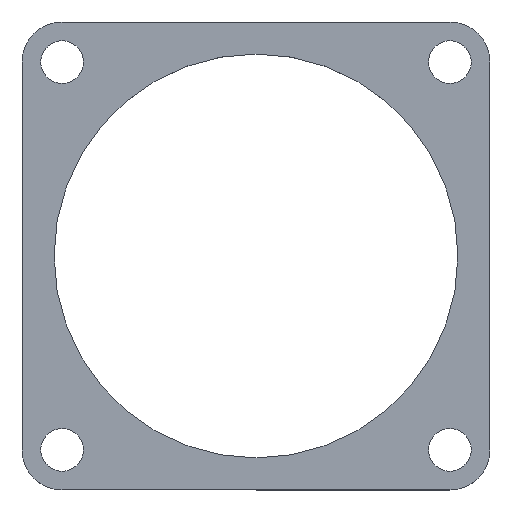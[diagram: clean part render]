
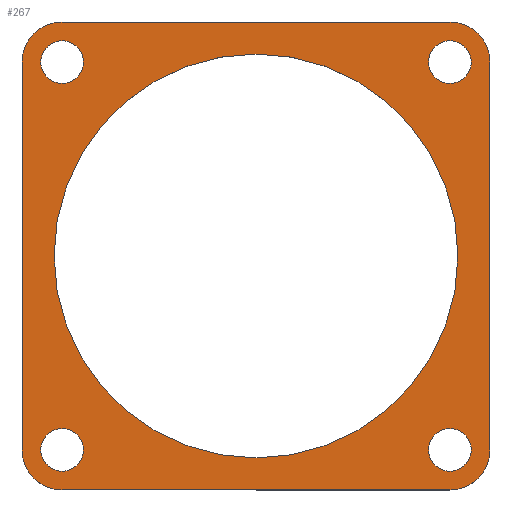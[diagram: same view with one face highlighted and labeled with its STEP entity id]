
A CAD part, top view. The second image highlights one B-rep face of the part: STEP entity #267.
In plain terms, the highlighted planar face has unit normal (0, 0, 1).
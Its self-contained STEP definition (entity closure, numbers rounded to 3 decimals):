
#3 = VECTOR ( 'NONE', #8, 1000. ) ;
#7 = VECTOR ( 'NONE', #392, 1000. ) ;
#8 = DIRECTION ( 'NONE',  ( 1., 0., 0. ) ) ;
#29 = FACE_BOUND ( 'NONE', #189, .T. ) ;
#35 = DIRECTION ( 'NONE',  ( -1., 0., 0. ) ) ;
#40 = DIRECTION ( 'NONE',  ( 0., 0., 1. ) ) ;
#41 = DIRECTION ( 'NONE',  ( 0., -1., 0. ) ) ;
#44 = CARTESIAN_POINT ( 'NONE',  ( 14.5, 17.5, 1. ) ) ;
#47 = VERTEX_POINT ( 'NONE', #542 ) ;
#54 = CIRCLE ( 'NONE', #360, 1.6 ) ;
#60 = VERTEX_POINT ( 'NONE', #340 ) ;
#63 = CARTESIAN_POINT ( 'NONE',  ( 16.1, 14.5, 1. ) ) ;
#66 = AXIS2_PLACEMENT_3D ( 'NONE', #516, #224, #99 ) ;
#69 = EDGE_LOOP ( 'NONE', ( #345 ) ) ;
#74 = AXIS2_PLACEMENT_3D ( 'NONE', #433, #354, #175 ) ;
#75 = ORIENTED_EDGE ( 'NONE', *, *, #221, .T. ) ;
#76 = AXIS2_PLACEMENT_3D ( 'NONE', #254, #40, #347 ) ;
#87 = DIRECTION ( 'NONE',  ( 0., 0., 1. ) ) ;
#93 = CARTESIAN_POINT ( 'NONE',  ( 17.5, 14.5, 1. ) ) ;
#95 = CARTESIAN_POINT ( 'NONE',  ( 17.5, -14.5, 1. ) ) ;
#99 = DIRECTION ( 'NONE',  ( 1., 0., 0. ) ) ;
#103 = LINE ( 'NONE', #93, #7 ) ;
#112 = AXIS2_PLACEMENT_3D ( 'NONE', #436, #272, #170 ) ;
#115 = AXIS2_PLACEMENT_3D ( 'NONE', #262, #521, #313 ) ;
#121 = CARTESIAN_POINT ( 'NONE',  ( -14.5, 14.5, 1. ) ) ;
#123 = CIRCLE ( 'NONE', #115, 3. ) ;
#131 = AXIS2_PLACEMENT_3D ( 'NONE', #469, #87, #300 ) ;
#132 = CARTESIAN_POINT ( 'NONE',  ( 0., 0., 1. ) ) ;
#133 = EDGE_CURVE ( 'NONE', #500, #500, #54, .T. ) ;
#146 = ORIENTED_EDGE ( 'NONE', *, *, #541, .F. ) ;
#147 = CARTESIAN_POINT ( 'NONE',  ( -12.9, -14.5, 1. ) ) ;
#151 = VERTEX_POINT ( 'NONE', #63 ) ;
#152 = FACE_OUTER_BOUND ( 'NONE', #284, .T. ) ;
#156 = EDGE_LOOP ( 'NONE', ( #480 ) ) ;
#164 = EDGE_CURVE ( 'NONE', #310, #60, #423, .T. ) ;
#165 = CIRCLE ( 'NONE', #514, 1.6 ) ;
#170 = DIRECTION ( 'NONE',  ( -1., 0., 0. ) ) ;
#172 = EDGE_CURVE ( 'NONE', #490, #318, #250, .T. ) ;
#175 = DIRECTION ( 'NONE',  ( 1., 0., 0. ) ) ;
#178 = VECTOR ( 'NONE', #35, 1000. ) ;
#181 = DIRECTION ( 'NONE',  ( 1., 0., 0. ) ) ;
#185 = CARTESIAN_POINT ( 'NONE',  ( 14.5, 14.5, 1. ) ) ;
#189 = EDGE_LOOP ( 'NONE', ( #366 ) ) ;
#200 = CIRCLE ( 'NONE', #76, 3. ) ;
#205 = DIRECTION ( 'NONE',  ( 0., 0., 1. ) ) ;
#206 = VERTEX_POINT ( 'NONE', #320 ) ;
#212 = CARTESIAN_POINT ( 'NONE',  ( -14.5, -17.5, 1. ) ) ;
#213 = AXIS2_PLACEMENT_3D ( 'NONE', #185, #280, #181 ) ;
#219 = EDGE_LOOP ( 'NONE', ( #426 ) ) ;
#221 = EDGE_CURVE ( 'NONE', #318, #298, #200, .T. ) ;
#222 = CARTESIAN_POINT ( 'NONE',  ( -17.5, 14.5, 1. ) ) ;
#224 = DIRECTION ( 'NONE',  ( 0., 0., 1. ) ) ;
#226 = EDGE_CURVE ( 'NONE', #298, #285, #239, .T. ) ;
#238 = EDGE_CURVE ( 'NONE', #206, #206, #348, .T. ) ;
#239 = LINE ( 'NONE', #212, #3 ) ;
#245 = ORIENTED_EDGE ( 'NONE', *, *, #164, .T. ) ;
#250 = LINE ( 'NONE', #379, #257 ) ;
#251 = ORIENTED_EDGE ( 'NONE', *, *, #226, .T. ) ;
#254 = CARTESIAN_POINT ( 'NONE',  ( -14.5, -14.5, 1. ) ) ;
#255 = CARTESIAN_POINT ( 'NONE',  ( -14.5, -17.5, 1. ) ) ;
#257 = VECTOR ( 'NONE', #41, 1000. ) ;
#260 = ORIENTED_EDGE ( 'NONE', *, *, #435, .T. ) ;
#262 = CARTESIAN_POINT ( 'NONE',  ( 14.5, 14.5, 1. ) ) ;
#264 = VERTEX_POINT ( 'NONE', #147 ) ;
#267 = ADVANCED_FACE ( 'NONE', ( #509, #29, #152, #316, #397, #438 ), #468, .T. ) ;
#268 = DIRECTION ( 'NONE',  ( 0., 0., 1. ) ) ;
#272 = DIRECTION ( 'NONE',  ( 0., 0., 1. ) ) ;
#275 = CIRCLE ( 'NONE', #66, 1.6 ) ;
#280 = DIRECTION ( 'NONE',  ( 0., 0., 1. ) ) ;
#282 = CARTESIAN_POINT ( 'NONE',  ( 16.1, -14.5, 1. ) ) ;
#284 = EDGE_LOOP ( 'NONE', ( #533, #260, #304, #245, #539, #446, #75, #251 ) ) ;
#285 = VERTEX_POINT ( 'NONE', #510 ) ;
#295 = DIRECTION ( 'NONE',  ( 1., 0., 0. ) ) ;
#298 = VERTEX_POINT ( 'NONE', #255 ) ;
#300 = DIRECTION ( 'NONE',  ( 1., 0., 0. ) ) ;
#301 = CIRCLE ( 'NONE', #213, 1.6 ) ;
#304 = ORIENTED_EDGE ( 'NONE', *, *, #460, .T. ) ;
#308 = DIRECTION ( 'NONE',  ( 1., 0., 0. ) ) ;
#310 = VERTEX_POINT ( 'NONE', #44 ) ;
#313 = DIRECTION ( 'NONE',  ( -1., 0., 0. ) ) ;
#316 = FACE_BOUND ( 'NONE', #69, .T. ) ;
#318 = VERTEX_POINT ( 'NONE', #346 ) ;
#319 = EDGE_CURVE ( 'NONE', #264, #264, #165, .T. ) ;
#320 = CARTESIAN_POINT ( 'NONE',  ( 15.1, 0., 1. ) ) ;
#340 = CARTESIAN_POINT ( 'NONE',  ( -14.5, 17.5, 1. ) ) ;
#345 = ORIENTED_EDGE ( 'NONE', *, *, #238, .F. ) ;
#346 = CARTESIAN_POINT ( 'NONE',  ( -17.5, -14.5, 1. ) ) ;
#347 = DIRECTION ( 'NONE',  ( -1., 0., 0. ) ) ;
#348 = CIRCLE ( 'NONE', #483, 15.1 ) ;
#351 = EDGE_CURVE ( 'NONE', #60, #490, #493, .T. ) ;
#354 = DIRECTION ( 'NONE',  ( 0., 0., 1. ) ) ;
#360 = AXIS2_PLACEMENT_3D ( 'NONE', #121, #205, #295 ) ;
#366 = ORIENTED_EDGE ( 'NONE', *, *, #133, .F. ) ;
#379 = CARTESIAN_POINT ( 'NONE',  ( -17.5, 14.5, 1. ) ) ;
#381 = CIRCLE ( 'NONE', #74, 3. ) ;
#390 = EDGE_LOOP ( 'NONE', ( #146 ) ) ;
#392 = DIRECTION ( 'NONE',  ( 0., 1., 0. ) ) ;
#397 = FACE_BOUND ( 'NONE', #390, .T. ) ;
#423 = LINE ( 'NONE', #547, #178 ) ;
#424 = DIRECTION ( 'NONE',  ( 0., 0., 1. ) ) ;
#426 = ORIENTED_EDGE ( 'NONE', *, *, #319, .F. ) ;
#433 = CARTESIAN_POINT ( 'NONE',  ( 14.5, -14.5, 1. ) ) ;
#435 = EDGE_CURVE ( 'NONE', #494, #47, #103, .T. ) ;
#436 = CARTESIAN_POINT ( 'NONE',  ( -14.5, 14.5, 1. ) ) ;
#438 = FACE_BOUND ( 'NONE', #156, .T. ) ;
#443 = EDGE_CURVE ( 'NONE', #444, #444, #275, .T. ) ;
#444 = VERTEX_POINT ( 'NONE', #282 ) ;
#446 = ORIENTED_EDGE ( 'NONE', *, *, #172, .T. ) ;
#460 = EDGE_CURVE ( 'NONE', #47, #310, #123, .T. ) ;
#464 = EDGE_CURVE ( 'NONE', #285, #494, #381, .T. ) ;
#468 = PLANE ( 'NONE',  #131 ) ;
#469 = CARTESIAN_POINT ( 'NONE',  ( 14.5, -14.5, 1. ) ) ;
#474 = CARTESIAN_POINT ( 'NONE',  ( -14.5, -14.5, 1. ) ) ;
#480 = ORIENTED_EDGE ( 'NONE', *, *, #443, .F. ) ;
#483 = AXIS2_PLACEMENT_3D ( 'NONE', #132, #424, #505 ) ;
#490 = VERTEX_POINT ( 'NONE', #222 ) ;
#493 = CIRCLE ( 'NONE', #112, 3. ) ;
#494 = VERTEX_POINT ( 'NONE', #95 ) ;
#500 = VERTEX_POINT ( 'NONE', #528 ) ;
#505 = DIRECTION ( 'NONE',  ( 1., 0., 0. ) ) ;
#509 = FACE_BOUND ( 'NONE', #219, .T. ) ;
#510 = CARTESIAN_POINT ( 'NONE',  ( 14.5, -17.5, 1. ) ) ;
#514 = AXIS2_PLACEMENT_3D ( 'NONE', #474, #268, #308 ) ;
#516 = CARTESIAN_POINT ( 'NONE',  ( 14.5, -14.5, 1. ) ) ;
#521 = DIRECTION ( 'NONE',  ( 0., 0., 1. ) ) ;
#528 = CARTESIAN_POINT ( 'NONE',  ( -12.9, 14.5, 1. ) ) ;
#533 = ORIENTED_EDGE ( 'NONE', *, *, #464, .T. ) ;
#539 = ORIENTED_EDGE ( 'NONE', *, *, #351, .T. ) ;
#541 = EDGE_CURVE ( 'NONE', #151, #151, #301, .T. ) ;
#542 = CARTESIAN_POINT ( 'NONE',  ( 17.5, 14.5, 1. ) ) ;
#547 = CARTESIAN_POINT ( 'NONE',  ( -14.5, 17.5, 1. ) ) ;
